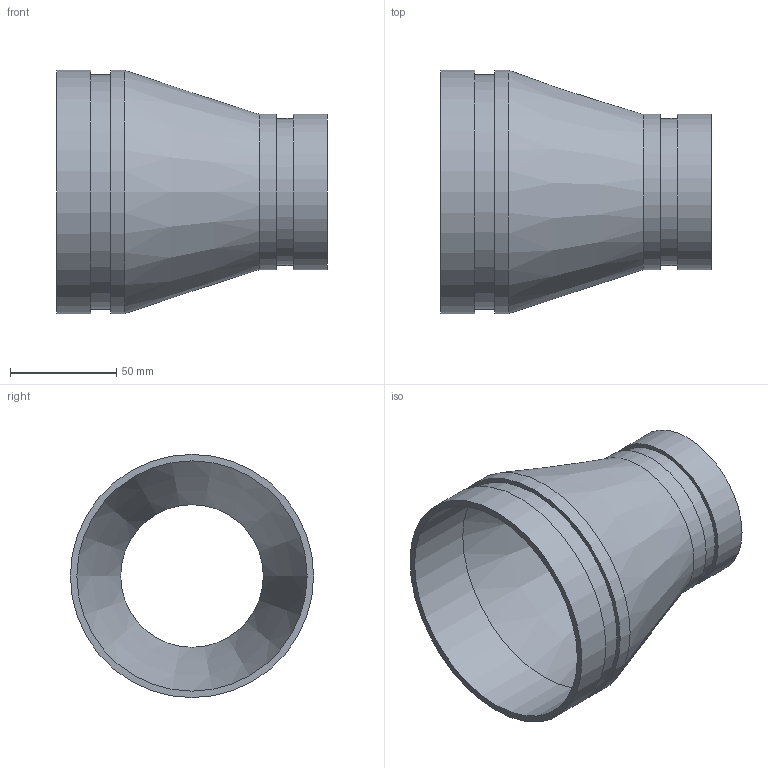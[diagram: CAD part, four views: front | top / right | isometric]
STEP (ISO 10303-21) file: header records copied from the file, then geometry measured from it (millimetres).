
FILE_DESCRIPTION(/* description */ ('VIC REDUCER CONCENTRIC No 450-SS','CAx-IF Rec.Pracs.---Representation and Presentation of Product Manufacturing Information (PMI)---4.0---2014-10-13'),/* implementation_level */ '2;1');
FILE_NAME(/* name */ 'C:\Users\kkamble\AppData\Roaming\Autodesk\ApplicationPlugins\Back Up\Victaulic_SS-OGS_Reducer Concentric_Sched 10S_No 450 SS (OGS)\Victaulic_SS-OGS_Reducer Concentric_Sched 10S_No 450 SS (OGS)_04.0x02.5 (100x65).stp',/* time_stamp */ '2020-09-08T12:33:02+05:00',/* author */ ('CORINNE GRAY'),/* organization */ ('Victaulic'),/* preprocessor_version */ 'ST-DEVELOPER v17.2',/* originating_system */ 'Autodesk Inventor 2019',/* authorisation */ '');
FILE_SCHEMA (('AP242_MANAGED_MODEL_BASED_3D_ENGINEERING_MIM_LF { 1 0 10303 442 1 1 4 }'));
Length unit declared in the file: inch
Products named in the file (1): 450 SS-04.0x02.5
Bounding box: 127 x 114.3 x 114.3 mm (x, y, z)
Volume: 98690 mm3; surface area: 78065.9 mm2
Topology: 1 solids, 1 shells, 16 faces, 42 edges, 32 vertices
Faces by surface type: cylinder 8, plane 6, cone 2
Full cylindrical faces by diameter (mm): 67.056 x1, 69.088 x1, 73.025 x2, 108.204 x1, 110.084 x1, 114.3 x2
Entity records: 686 total; most frequent: DIRECTION 134, CARTESIAN_POINT 108, ORIENTED_EDGE 84, AXIS2_PLACEMENT_3D 62, EDGE_CURVE 42, CIRCLE 32, VERTEX_POINT 32, EDGE_LOOP 22
